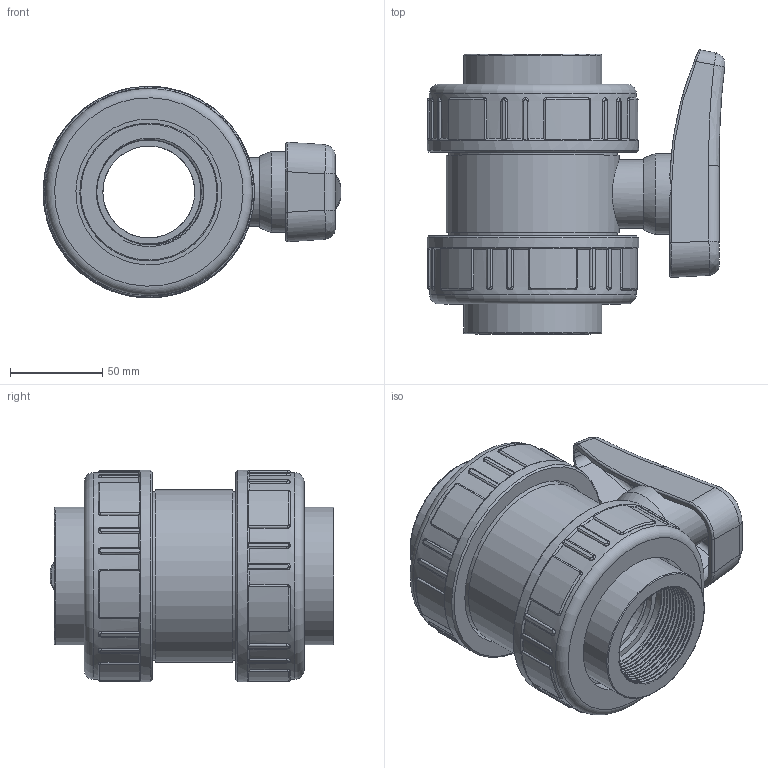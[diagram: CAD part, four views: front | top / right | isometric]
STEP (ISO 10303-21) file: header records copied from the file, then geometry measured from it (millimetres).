
FILE_DESCRIPTION(/* description */ (''),/* implementation_level */ '2;1');
FILE_NAME(/* name */ 'C:\Users\POLYPIPE\Desktop\DATASET INVENTOR\LIBRERIA EFFAST\3D_VALVOLE\3D_VALVOLE A SFERA\3D_BV\3D_BERBVE\3D_BERBVE063G.stp',/* time_stamp */ '2018-01-24T10:05:53+01:00',/* author */ ('POLYPIPE'),/* organization */ (''),/* preprocessor_version */ 'ST-DEVELOPER v16.1',/* originating_system */ 'Autodesk Inventor 2016',/* authorisation */ '');
FILE_SCHEMA (('CONFIG_CONTROL_DESIGN'));
Length unit declared in the file: centimetre
Products named in the file (1): 3D_BERBVE063G
Bounding box: 161.93 x 154.34 x 115 mm (x, y, z)
Volume: 885490 mm3; surface area: 188501.5 mm2
Topology: 3 solids, 4 shells, 527 faces, 1354 edges, 852 vertices
Faces by surface type: bspline 172, plane 170, cylinder 164, torus 16, cone 5
Full cylindrical faces by diameter (mm): 25.1 x1, 37.3 x1, 44 x1, 50 x3, 55 x1, 56.656 x2, 66.8 x1, 75 x3, 79.3 x2, 89 x2, 91.7 x2, 94 x1, 96.5 x2, 112.4 x2, 115 x2
Entity records: 68951 total; most frequent: CARTESIAN_POINT 56641, ORIENTED_EDGE 2612, DIRECTION 2133, EDGE_CURVE 1306, VERTEX_POINT 839, AXIS2_PLACEMENT_3D 820, EDGE_LOOP 585, STYLED_ITEM 530
